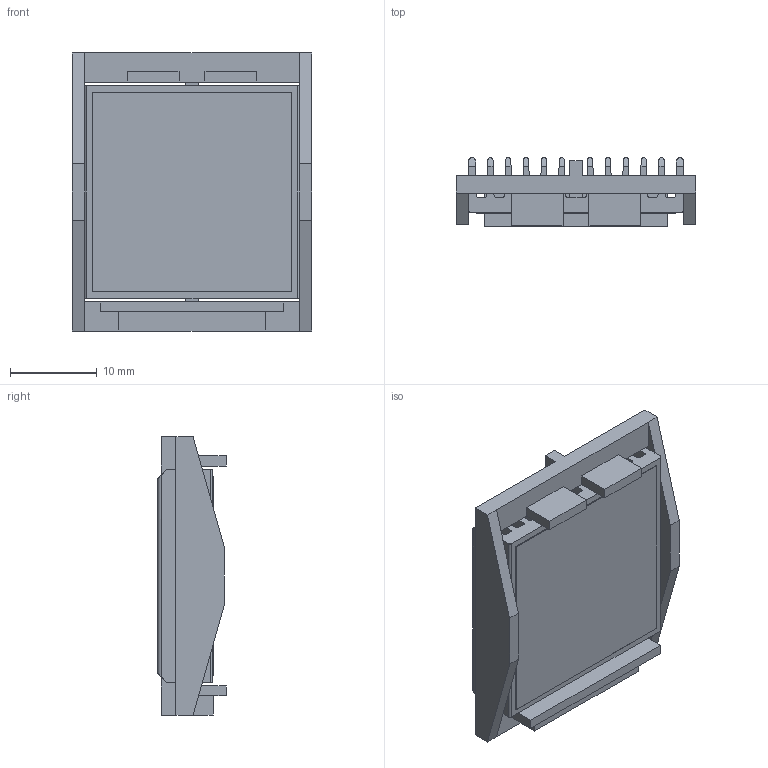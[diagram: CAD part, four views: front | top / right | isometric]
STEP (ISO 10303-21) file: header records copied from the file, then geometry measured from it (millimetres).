
FILE_DESCRIPTION (( 'STEP AP214' ), '1' );
FILE_NAME ('INL25001-6-1.7BU.STEP', '2023-02-21T19:26:59', ( '' ), ( '' ), 'SwSTEP 2.0', 'SolidWorks 2020', '' );
FILE_SCHEMA (( 'AUTOMOTIVE_DESIGN' ));
Length unit declared in the file: millimetre
Products named in the file (1): INL25001-6-1.7BU
Bounding box: 27.7 x 7.9 x 32.1 mm (x, y, z)
Volume: 3110.5 mm3; surface area: 6752.5 mm2
Topology: 3 solids, 3 shells, 152 faces, 440 edges, 292 vertices
Faces by surface type: plane 116, cylinder 36
Entity records: 6668 total; most frequent: CARTESIAN_POINT 957, ORIENTED_EDGE 880, DIRECTION 770, EDGE_CURVE 440, VECTOR 368, LINE 368, VERTEX_POINT 292, AXIS2_PLACEMENT_3D 201
